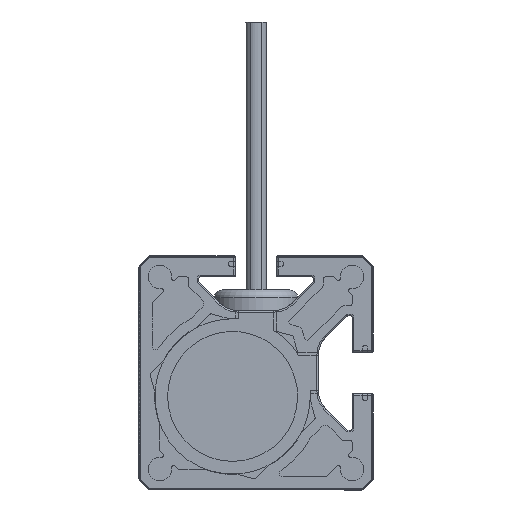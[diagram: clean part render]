
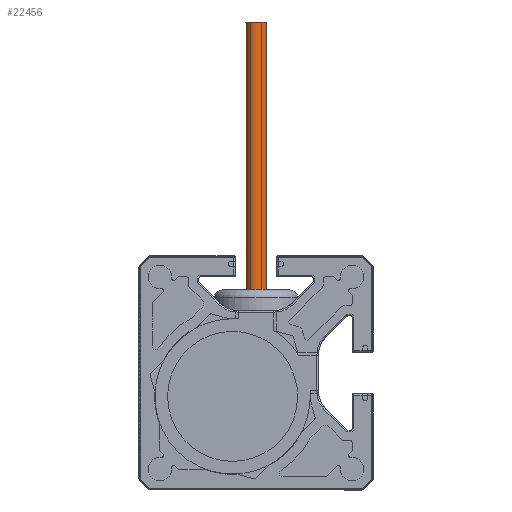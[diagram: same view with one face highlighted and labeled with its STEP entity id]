
A CAD part, front view. The second image highlights one B-rep face of the part: STEP entity #22456.
In plain terms, the highlighted cylindrical face has radius 2 mm (diameter 4 mm), a full revolution.
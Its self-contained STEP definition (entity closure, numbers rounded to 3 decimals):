
#1225=CYLINDRICAL_SURFACE('',#24836,2.);
#5838=CIRCLE('',#24837,2.);
#5839=CIRCLE('',#24838,2.);
#11243=ORIENTED_EDGE('',*,*,#15482,.T.);
#11244=ORIENTED_EDGE('',*,*,#15483,.F.);
#15482=EDGE_CURVE('',#18034,#18034,#5838,.T.);
#15483=EDGE_CURVE('',#18035,#18035,#5839,.T.);
#18034=VERTEX_POINT('',#38152);
#18035=VERTEX_POINT('',#38154);
#19831=EDGE_LOOP('',(#11243));
#19832=EDGE_LOOP('',(#11244));
#21156=FACE_BOUND('',#19831,.T.);
#21157=FACE_BOUND('',#19832,.T.);
#22456=ADVANCED_FACE('',(#21156,#21157),#1225,.T.);
#24836=AXIS2_PLACEMENT_3D('',#38150,#30338,#30339);
#24837=AXIS2_PLACEMENT_3D('',#38151,#30340,#30341);
#24838=AXIS2_PLACEMENT_3D('',#38153,#30342,#30343);
#30338=DIRECTION('',(0.,0.,-1.));
#30339=DIRECTION('',(-1.,0.,0.));
#30340=DIRECTION('',(0.,0.,-1.));
#30341=DIRECTION('',(1.,0.,0.));
#30342=DIRECTION('',(0.,0.,-1.));
#30343=DIRECTION('',(1.,0.,0.));
#38150=CARTESIAN_POINT('',(0.,0.,70.));
#38151=CARTESIAN_POINT('',(0.,0.,70.));
#38152=CARTESIAN_POINT('',(2.,0.,70.));
#38153=CARTESIAN_POINT('',(0.,0.,0.));
#38154=CARTESIAN_POINT('',(2.,0.,0.));
